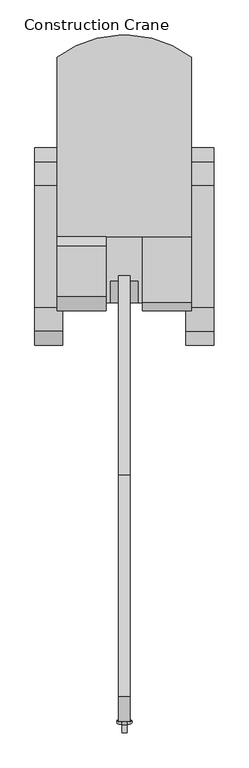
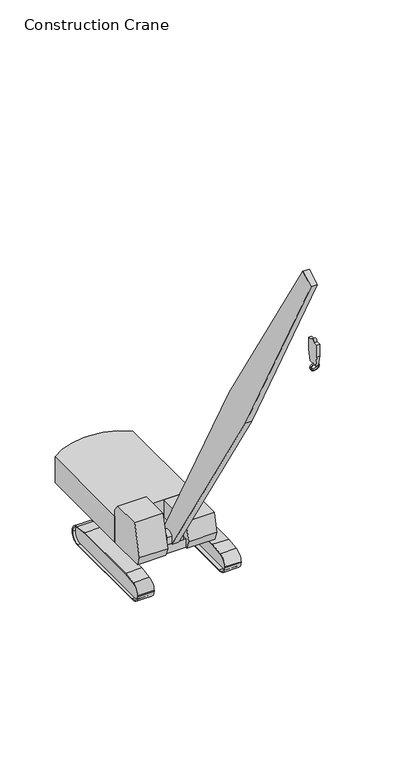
"""IFC4 building model written with IfcOpenShell, lengths in millimetres: geographic element geometry, Construction Crane : 75' @ 60 deg."""

from ifc_helpers import new_model, si_unit, point, frame, frame_2d, origin, place, context, project, spatial, polyline, circle_curve, trimmed, segment, composite_curve, outline, extrude, source, transform, mapped, element, save


def construction_crane_175cd510(model_context):
    return source(origin(), model_context, "Body", "SweptSolid", [
        extrude(outline(composite_curve([segment(polyline([(-4575.608491, 934.26875), (-1239.0684321, 934.26875), (-625.3121051, 856.1386871)]), True, "CONTINUOUS"), segment(trimmed(circle_curve(frame_2d((-676.8331731, 453.3411993)), 406.0791014), [point((-625.3121051, 856.1386871))], [point((-270.7700765, 456.946505))], False, "CARTESIAN"), True, "CONTINUOUS"), segment(trimmed(circle_curve(frame_2d((-676.7161092, 456.946505)), 405.9460328), [point((-270.7700765, 456.946505))], [point((-676.7161092, 51.0004722))], False, "CARTESIAN"), True, "CONTINUOUS"), segment(polyline([(-676.7161092, 51.0004722), (-5143.9371049, 51.0004722)]), True, "CONTINUOUS"), segment(trimmed(circle_curve(frame_2d((-5143.9371049, 451.7022639)), 400.7017917), [point((-5143.9371049, 51.0004722))], [point((-5544.6388966, 451.7022639))], False, "CARTESIAN"), True, "CONTINUOUS"), segment(trimmed(circle_curve(frame_2d((-5137.6945084, 451.7710081)), 406.944394), [point((-5544.6388966, 451.7022639))], [point((-5189.1160735, 855.4535101))], False, "CARTESIAN"), True, "CONTINUOUS"), segment(polyline([(-5189.1160735, 855.4535101), (-4575.608491, 934.26875)]), True, "CONTINUOUS")], self_intersect=False)), frame((-3817.0809216, 0.0, 0.0), z_axis=(1.0, 0.0, 0.0), x_axis=(0.0, 1.0, 0.0)), (0.0, 0.0, 1.0), 464.6393791),
        extrude(outline(composite_curve([segment(polyline([(-651.6384615, 0.0), (-5163.0384615, 0.0)]), True, "CONTINUOUS"), segment(trimmed(circle_curve(frame_2d((-5163.0384615, 431.8)), 431.8), [point((-5163.0384615, 0.0))], [point((-5594.8384615, 431.8))], False, "CARTESIAN"), True, "CONTINUOUS"), segment(polyline([(-5594.8384615, 431.8), (-5594.8384615, 475.1036968)]), True, "CONTINUOUS"), segment(trimmed(circle_curve(frame_2d((-5163.0384615, 475.1036968)), 431.8), [point((-5594.8384615, 475.1036968))], [point((-5217.7268735, 903.4264928))], False, "CARTESIAN"), True, "CONTINUOUS"), segment(polyline([(-5217.7268735, 903.4264928), (-4578.8384615, 985.06875), (-1235.8384615, 985.06875), (-596.9500496, 903.4264928)]), True, "CONTINUOUS"), segment(trimmed(circle_curve(frame_2d((-651.6384615, 475.1036968)), 431.8), [point((-596.9500496, 903.4264928))], [point((-219.8384615, 475.1036968))], False, "CARTESIAN"), True, "CONTINUOUS"), segment(polyline([(-219.8384615, 475.1036968), (-219.8384615, 431.8)]), True, "CONTINUOUS"), segment(trimmed(circle_curve(frame_2d((-651.6384615, 431.8)), 431.8), [point((-219.8384615, 431.8))], [point((-651.6384615, 0.0))], False, "CARTESIAN"), True, "CONTINUOUS")], self_intersect=False), holes=[composite_curve([segment(polyline([(-4575.608491, 934.26875), (-5189.1160735, 855.3847601)]), True, "CONTINUOUS"), segment(trimmed(circle_curve(frame_2d((-5137.6945084, 451.7022639)), 406.9443882), [point((-5189.1160735, 855.3847601))], [point((-5544.6388966, 451.7022639))], True, "CARTESIAN"), True, "CONTINUOUS"), segment(trimmed(circle_curve(frame_2d((-5143.9371049, 451.7022639)), 400.7017917), [point((-5544.6388966, 451.7022639))], [point((-5143.9371049, 51.0004722))], True, "CARTESIAN"), True, "CONTINUOUS"), segment(polyline([(-5143.9371049, 51.0004722), (-676.7161092, 51.0004722)]), True, "CONTINUOUS"), segment(trimmed(circle_curve(frame_2d((-676.7161092, 456.946505)), 405.9460328), [point((-676.7161092, 51.0004722))], [point((-270.7700765, 456.946505))], True, "CARTESIAN"), True, "CONTINUOUS"), segment(trimmed(circle_curve(frame_2d((-676.8331731, 453.2718224)), 406.0797233), [point((-270.7700765, 456.946505))], [point((-625.3121051, 856.0699371))], True, "CARTESIAN"), True, "CONTINUOUS"), segment(polyline([(-625.3121051, 856.0699371), (-1239.0684321, 934.26875), (-4575.608491, 934.26875)]), True, "CONTINUOUS")], self_intersect=False)]), frame((-4002.72123, 0.0, 0.0), z_axis=(1.0, 0.0, 0.0), x_axis=(0.0, 1.0, 0.0)), (0.0, 0.0, 1.0), 762.0),
        extrude(outline(composite_curve([segment(polyline([(-4575.608491, 934.26875), (-1239.0684321, 934.26875), (-625.3121051, 856.1386871)]), True, "CONTINUOUS"), segment(trimmed(circle_curve(frame_2d((-676.8331731, 453.3411993)), 406.0791014), [point((-625.3121051, 856.1386871))], [point((-270.7700765, 456.946505))], False, "CARTESIAN"), True, "CONTINUOUS"), segment(trimmed(circle_curve(frame_2d((-676.7161092, 456.946505)), 405.9460328), [point((-270.7700765, 456.946505))], [point((-676.7161092, 51.0004722))], False, "CARTESIAN"), True, "CONTINUOUS"), segment(polyline([(-676.7161092, 51.0004722), (-5143.9005487, 51.0004722)]), True, "CONTINUOUS"), segment(trimmed(circle_curve(frame_2d((-5143.9005487, 451.7388201)), 400.738348), [point((-5143.9005487, 51.0004722))], [point((-5544.6388966, 451.7388201))], False, "CARTESIAN"), True, "CONTINUOUS"), segment(trimmed(circle_curve(frame_2d((-5137.6579522, 451.7388201)), 406.9809445), [point((-5544.6388966, 451.7388201))], [point((-5189.1160735, 855.4535101))], False, "CARTESIAN"), True, "CONTINUOUS"), segment(polyline([(-5189.1160735, 855.4535101), (-4575.608491, 934.26875)]), True, "CONTINUOUS")], self_intersect=False)), frame((-8005.8009175, 0.0, 0.0), z_axis=(1.0, 0.0, 0.0), x_axis=(0.0, 1.0, 0.0)), (0.0, 0.0, 1.0), 464.6393791),
        extrude(outline(composite_curve([segment(polyline([(-3855.5873985, 1944.8065119), (-3855.5873985, 1589.2065119), (-4435.4967838, 1589.2065119), (-4435.4967838, 1944.8065119)]), True, "CONTINUOUS"), segment(trimmed(circle_curve(frame_2d((-4145.5420911, 1746.7297499)), 351.15257), [point((-4435.4967838, 1944.8065119))], [point((-3855.5873985, 1944.8065119))], False, "CARTESIAN"), True, "CONTINUOUS")], self_intersect=False)), frame((-6056.08998, 0.0, 0.0), z_axis=(1.0, 0.0, 0.0), x_axis=(0.0, 1.0, 0.0)), (0.0, 0.0, 1.0), 755.1034902),
        extrude(outline(polyline([(-5179.12123, -2642.3288049), (-5179.12123, -4433.7384615), (-6179.12123, -4433.7384615), (-6179.12123, -2642.3288049), (-5179.12123, -2642.3288049)])), frame((0.0, 0.0, 1155.0), z_axis=(0.0, 0.0, 1.0), x_axis=(1.0, 0.0, 0.0)), (0.0, 0.0, 1.0), 434.1377619),
        extrude(outline(composite_curve([segment(polyline([(-651.6384615, 0.0), (-5163.0384615, 0.0)]), True, "CONTINUOUS"), segment(trimmed(circle_curve(frame_2d((-5163.0384615, 431.8)), 431.8), [point((-5163.0384615, 0.0))], [point((-5594.8384615, 431.8))], False, "CARTESIAN"), True, "CONTINUOUS"), segment(polyline([(-5594.8384615, 431.8), (-5594.8384615, 475.1036968)]), True, "CONTINUOUS"), segment(trimmed(circle_curve(frame_2d((-5163.0384615, 475.1036968)), 431.8), [point((-5594.8384615, 475.1036968))], [point((-5217.7268735, 903.4264928))], False, "CARTESIAN"), True, "CONTINUOUS"), segment(polyline([(-5217.7268735, 903.4264928), (-4578.8384615, 985.06875), (-1235.8384615, 985.06875), (-596.9500496, 903.4264928)]), True, "CONTINUOUS"), segment(trimmed(circle_curve(frame_2d((-651.6384615, 475.1036968)), 431.8), [point((-596.9500496, 903.4264928))], [point((-219.8384615, 475.1036968))], False, "CARTESIAN"), True, "CONTINUOUS"), segment(polyline([(-219.8384615, 475.1036968), (-219.8384615, 431.8)]), True, "CONTINUOUS"), segment(trimmed(circle_curve(frame_2d((-651.6384615, 431.8)), 431.8), [point((-219.8384615, 431.8))], [point((-651.6384615, 0.0))], False, "CARTESIAN"), True, "CONTINUOUS")], self_intersect=False), holes=[composite_curve([segment(polyline([(-4575.608491, 934.26875), (-5189.1160735, 855.3847601)]), True, "CONTINUOUS"), segment(trimmed(circle_curve(frame_2d((-5137.6945084, 451.7022639)), 406.9443882), [point((-5189.1160735, 855.3847601))], [point((-5544.6388966, 451.7022639))], True, "CARTESIAN"), True, "CONTINUOUS"), segment(trimmed(circle_curve(frame_2d((-5143.9371049, 451.7022639)), 400.7017917), [point((-5544.6388966, 451.7022639))], [point((-5143.9371049, 51.0004722))], True, "CARTESIAN"), True, "CONTINUOUS"), segment(polyline([(-5143.9371049, 51.0004722), (-676.7161092, 51.0004722)]), True, "CONTINUOUS"), segment(trimmed(circle_curve(frame_2d((-676.7161092, 456.946505)), 405.9460328), [point((-676.7161092, 51.0004722))], [point((-270.7700765, 456.946505))], True, "CARTESIAN"), True, "CONTINUOUS"), segment(trimmed(circle_curve(frame_2d((-676.8331731, 453.2718224)), 406.0797233), [point((-270.7700765, 456.946505))], [point((-625.3121051, 856.0699371))], True, "CARTESIAN"), True, "CONTINUOUS"), segment(polyline([(-625.3121051, 856.0699371), (-1239.0684321, 934.26875), (-4575.608491, 934.26875)]), True, "CONTINUOUS")], self_intersect=False)]), frame((-8117.52123, 0.0, 0.0), z_axis=(1.0, 0.0, 0.0), x_axis=(0.0, 1.0, 0.0)), (0.0, 0.0, 1.0), 762.0),
        extrude(outline(composite_curve([segment(polyline([(-7507.92123, -2642.3288049), (-7507.92123, 2234.4711951)]), True, "CONTINUOUS"), segment(trimmed(circle_curve(frame_2d((-5666.4440826, -219.7409602)), 3068.2560824), [point((-7507.92123, 2234.4711951))], [point((-5831.52123, 2844.0711951))], False, "CARTESIAN"), True, "CONTINUOUS"), segment(polyline([(-5831.52123, 2844.0711951), (-5526.72123, 2844.0711951)]), True, "CONTINUOUS"), segment(trimmed(circle_curve(frame_2d((-5627.7327269, -43.5604214)), 2889.3978049), [point((-5526.72123, 2844.0711951))], [point((-3850.32123, 2234.4711951))], False, "CARTESIAN"), True, "CONTINUOUS"), segment(polyline([(-3850.32123, 2234.4711951), (-3850.32123, -2642.3288049), (-7507.92123, -2642.3288049)]), True, "CONTINUOUS")], self_intersect=False)), frame((0.0, 0.0, 1155.0), z_axis=(0.0, 0.0, 1.0), x_axis=(1.0, 0.0, 0.0)), (0.0, 0.0, 1.0), 1300.06875),
        extrude(outline(polyline([(-2642.3288049, 1155.06875), (-4509.1429639, 1155.06875), (-4662.3384615, 1584.1295061), (-4443.5105446, 2455.06875), (-2642.3288049, 2455.06875), (-2642.3288049, 1155.06875)])), frame((-5179.12123, 0.0, 0.0), z_axis=(1.0, 0.0, 0.0), x_axis=(0.0, 1.0, 0.0)), (0.0, 0.0, 1.0), 1328.8),
        extrude(outline(polyline([(-2642.3288049, 2759.86875), (-2642.3288049, 2455.06875), (-2642.3288049, 1155.06875), (-4509.1429639, 1155.06875), (-4662.3384615, 1584.1295061), (-4278.9384615, 3110.06875), (-2907.3384615, 3110.06875), (-2642.3288049, 2759.86875)])), frame((-7507.92123, 0.0, 0.0), z_axis=(1.0, 0.0, 0.0), x_axis=(0.0, 1.0, 0.0)), (0.0, 0.0, 1.0), 1328.8),
        extrude(outline(polyline([(-9116.0827225, 11986.3999696), (-3709.0413561, 1909.9296043), (-4412.9468043, 1503.5296043), (-10435.9054378, 11224.3999696), (-15820.949759, 21313.5703348), (-15161.0384013, 21694.5703348), (-9116.0827225, 11986.3999696)])), frame((-5831.52123, 0.0, 0.0), z_axis=(1.0, 0.0, 0.0), x_axis=(0.0, 1.0, 0.0)), (0.0, 0.0, 1.0), 304.8),
        extrude(outline(composite_curve([segment(trimmed(circle_curve(frame_2d((0.0, -203.2)), 203.2), [point((0.0, -406.4))], [point((0.0, 0.0))], False, "CARTESIAN"), True, "CONTINUOUS"), segment(trimmed(circle_curve(frame_2d((0.0, -203.2)), 203.2), [point((0.0, 0.0))], [point((0.0, -406.4))], False, "CARTESIAN"), True, "CONTINUOUS")], self_intersect=False), holes=[composite_curve([segment(trimmed(circle_curve(frame_2d((0.0, -203.2)), 152.4), [point((0.0, -355.6))], [point((0.0, -50.8))], True, "CARTESIAN"), True, "CONTINUOUS"), segment(trimmed(circle_curve(frame_2d((0.0, -203.2)), 152.4), [point((0.0, -50.8))], [point((0.0, -355.6))], True, "CARTESIAN"), True, "CONTINUOUS")], self_intersect=False)]), frame((-5475.92123, -15872.2674955, 17287.533347), z_axis=(0.0, 0.9808984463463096, 0.19452053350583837), x_axis=(0.0, -0.19452053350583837, 0.9808984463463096)), (0.0, 0.0, 1.0), 62.999),
        extrude(outline(composite_curve([segment(polyline([(-15713.8512674, 18570.3703348), (-15497.9512674, 18570.3703348), (-15497.9512674, 17960.7703348), (-15586.1645417, 17460.4879963), (-16044.7379931, 17460.4879963), (-16143.9482506, 17960.7703348), (-16143.9482506, 18570.3703348), (-15928.0482506, 18570.3703348)]), True, "CONTINUOUS"), segment(trimmed(circle_curve(frame_2d((-15820.949759, 18570.3703348)), 107.0984916), [point((-15928.0482506, 18570.3703348))], [point((-15713.8512674, 18570.3703348))], False, "CARTESIAN"), True, "CONTINUOUS")], self_intersect=False)), frame((-5743.7360332, 0.0, 0.0), z_axis=(1.0, 0.0, 0.0), x_axis=(0.0, 1.0, 0.0)), (0.0, 0.0, 1.0), 133.1095203),
    ])


if __name__ == "__main__":
    model = new_model("IFC4")
    model_context = context("Model", 3, world=origin())
    ifc_project = project(units=[si_unit("LENGTHUNIT", "METRE", prefix="MILLI")], contexts=[model_context])
    site = spatial("IfcSite", under=ifc_project)
    building = spatial("IfcBuilding", under=site)
    placement = place(None, origin())
    construction_crane_shape = construction_crane_175cd510(model_context)
    element("IfcGeographicElement", 1, ObjectType="Construction Crane : 75' @ 60 deg", at=placement, inside=building, context=model_context, shape_type="MappedRepresentation", body=[
        mapped(construction_crane_shape, transform((0.0, 0.0, 0.0), x_axis=(1.0, 0.0, 0.0), y_axis=(0.0, 1.0, 0.0), z_axis=(0.0, 0.0, 1.0))),
    ])
    save(model, "model.ifc")
